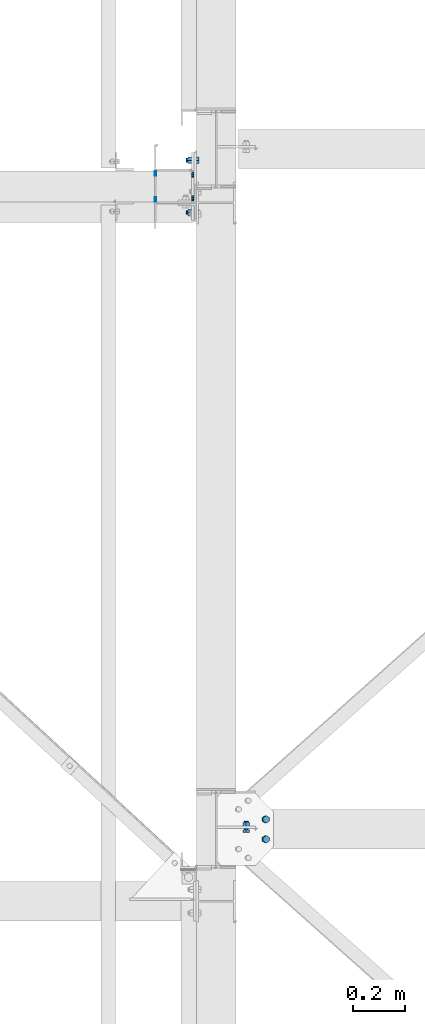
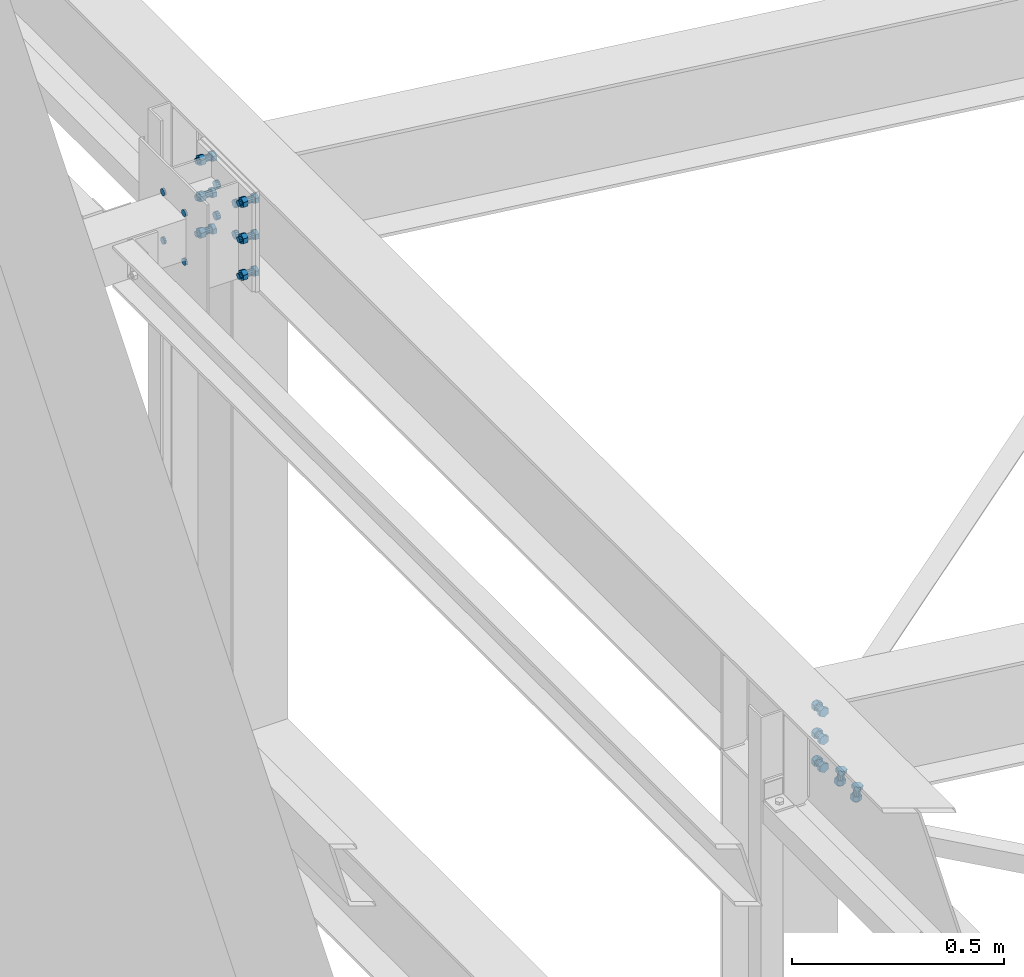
# One storey, part 195 of 3134: 5 mechanical fasteners, 3 elements without a shape of their own.
"""IFC2X3 building model written with IfcOpenShell, lengths in millimetres."""

from ifc_helpers import new_model, si_unit, frame, origin_with_axes, place, context, subcontext, project, spatial, faceted_brep, source, transform, mapped, material, type_object, element, aggregate, save


model = new_model("IFC2X3")

# Units and contexts
model_context = context("Model", 3, precision=1e-05, world=origin_with_axes())
body_context = subcontext(model_context, "Body", "Model", "MODEL_VIEW")
ifc_project = project(units=[si_unit("LENGTHUNIT", "METRE", prefix="MILLI"), si_unit("AREAUNIT", "SQUARE_METRE"), si_unit("VOLUMEUNIT", "CUBIC_METRE"), si_unit("MASSUNIT", "GRAM", prefix="KILO"), si_unit("TIMEUNIT", "SECOND"), si_unit("PLANEANGLEUNIT", "RADIAN"), si_unit("SOLIDANGLEUNIT", "STERADIAN"), si_unit("THERMODYNAMICTEMPERATUREUNIT", "DEGREE_CELSIUS"), si_unit("LUMINOUSINTENSITYUNIT", "LUMEN")], contexts=[model_context])

# Site, building, storey
site_placement = place(None, origin_with_axes())
site = spatial("IfcSite", under=ifc_project, at=site_placement, CompositionType="ELEMENT")
building_placement = place(site_placement, origin_with_axes())
building = spatial("IfcBuilding", under=site, at=building_placement, Name="Undefined", CompositionType="ELEMENT")
storey_placement = place(building_placement, origin_with_axes())
storey = spatial("IfcBuildingStorey", under=building, at=storey_placement, Name="Undefined", CompositionType="ELEMENT", Elevation=0.0)

# Assembly, mechanical fastener
assembly_1_placement = place(storey_placement, origin_with_axes())
assembly_1 = element("IfcElementAssembly", 1, at=assembly_1_placement, inside=storey, Name="300", AssemblyPlace="NOTDEFINED", PredefinedType="RIGID_FRAME")
ifc_material = material(Name="8.8")
mechanical_fastener_type = type_object("IfcMechanicalFastenerType", Name="Bolt assembly")
shared_shape_1 = source(origin_with_axes(), body_context, "Body", "Brep", [
    faceted_brep([(13.856406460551, -19.199990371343, 0.0), (6.92820323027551, -19.199990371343, 12.0), (-6.92820323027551, -19.199990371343, 12.0), (-13.856406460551, -19.199990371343, 1.69692038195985e-15), (-6.92820323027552, -19.199990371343, -12.0), (6.9282032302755, -19.199990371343, -12.0), (6.9282032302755, -9.19999037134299, -12.0), (-6.92820323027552, -9.19999037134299, -12.0), (-13.856406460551, -9.19999037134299, 1.69692038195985e-15), (-6.92820323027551, -9.19999037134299, 12.0), (6.92820323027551, -9.19999037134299, 12.0), (13.856406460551, -9.19999037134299, 0.0), (8.0, -9.19999037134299, 0.0), (6.92820323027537, -9.19999037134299, 4.00000000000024), (3.99999999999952, -9.19999037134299, 6.92820323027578), (-8.29068785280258e-13, -9.19999037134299, 8.0), (-4.00000000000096, -9.19999037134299, 6.92820323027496), (-6.9282032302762, -9.19999037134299, 3.99999999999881), (-8.0, -9.19999037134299, -1.65813757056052e-12), (-6.92820323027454, -9.19999037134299, -4.00000000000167), (-3.99999999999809, -9.19999037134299, -6.92820323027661), (2.47832457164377e-12, -9.19999037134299, -8.0), (4.00000000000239, -9.19999037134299, -6.92820323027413), (6.92820323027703, -9.19999037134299, -3.99999999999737), (6.92820323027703, 25.800009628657, -3.99999999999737), (4.00000000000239, 25.800009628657, -6.92820323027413), (2.47832457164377e-12, 25.800009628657, -8.0), (-3.99999999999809, 25.800009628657, -6.92820323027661), (-6.92820323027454, 25.800009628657, -4.00000000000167), (-8.0, 25.800009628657, -1.65813757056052e-12), (-6.9282032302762, 25.800009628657, 3.99999999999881), (-4.00000000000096, 25.800009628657, 6.92820323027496), (-8.29068785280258e-13, 25.800009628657, 8.0), (3.99999999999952, 25.800009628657, 6.92820323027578), (6.92820323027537, 25.800009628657, 4.00000000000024), (8.0, 25.800009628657, 0.0), (13.856406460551, 8.00000637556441, 0.0), (6.92820323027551, 8.00000637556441, 12.0), (-6.92820323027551, 8.00000637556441, 12.0), (-13.856406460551, 8.00000637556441, 1.69692038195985e-15), (-6.92820323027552, 8.00000637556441, -12.0), (6.9282032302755, 8.00000637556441, -12.0), (6.9282032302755, 21.0000063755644, -12.0), (-6.92820323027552, 21.0000063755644, -12.0), (-13.856406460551, 21.0000063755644, 1.69692038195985e-15), (-6.92820323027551, 21.0000063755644, 12.0), (6.92820323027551, 21.0000063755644, 12.0), (13.856406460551, 21.0000063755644, 0.0)], [[[0, 1, 2, 3, 4, 5]], [[6, 7, 8, 9, 10, 11]], [[0, 11, 10, 1]], [[1, 10, 9, 2]], [[2, 9, 8, 3]], [[3, 8, 7, 4]], [[4, 7, 6, 5]], [[5, 6, 11, 0]], [[12, 13, 14, 15, 16, 17, 18, 19, 20, 21, 22, 23]], [[24, 25, 26, 27, 28, 29, 30, 31, 32, 33, 34, 35]], [[12, 35, 34, 13]], [[13, 34, 33, 14]], [[14, 33, 32, 15]], [[15, 32, 31, 16]], [[16, 31, 30, 17]], [[17, 30, 29, 18]], [[18, 29, 28, 19]], [[19, 28, 27, 20]], [[20, 27, 26, 21]], [[21, 26, 25, 22]], [[22, 25, 24, 23]], [[23, 24, 35, 12]], [[36, 37, 38, 39, 40, 41]], [[42, 43, 44, 45, 46, 47]], [[36, 47, 46, 37]], [[37, 46, 45, 38]], [[38, 45, 44, 39]], [[39, 44, 43, 40]], [[40, 43, 42, 41]], [[41, 42, 47, 36]]]),
    faceted_brep([(9.0, -0.1, 0.0), (7.79422863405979, -0.1, 4.50000000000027), (4.49999999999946, -0.1, 7.79422863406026), (-9.3270238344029e-13, -0.1, 9.0), (-4.50000000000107, -0.1, 7.79422863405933), (-7.79422863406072, -0.1, 4.49999999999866), (-9.0, -0.1, -1.86540476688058e-12), (-7.79422863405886, -0.1, -4.50000000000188), (-4.49999999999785, -0.1, -7.79422863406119), (2.78811514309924e-12, -0.1, -9.0), (4.50000000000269, -0.1, -7.7942286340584), (7.79422863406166, -0.1, -4.49999999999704), (7.79422863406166, 8.00000000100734, -4.49999999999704), (4.50000000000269, 8.00000000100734, -7.7942286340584), (2.78811514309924e-12, 8.00000000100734, -9.0), (-4.49999999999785, 8.00000000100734, -7.79422863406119), (-7.79422863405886, 8.00000000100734, -4.50000000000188), (-9.0, 8.00000000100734, -1.86540476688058e-12), (-7.79422863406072, 8.00000000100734, 4.49999999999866), (-4.50000000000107, 8.00000000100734, 7.79422863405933), (-9.3270238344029e-13, 8.00000000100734, 9.0), (4.49999999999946, 8.00000000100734, 7.79422863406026), (7.79422863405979, 8.00000000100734, 4.50000000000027), (9.0, 8.00000000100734, 0.0), (9.0, -9.09999037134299, 0.0), (7.79422863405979, -9.09999037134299, 4.50000000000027), (4.49999999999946, -9.09999037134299, 7.79422863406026), (-9.3270238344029e-13, -9.09999037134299, 9.0), (-4.50000000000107, -9.09999037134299, 7.79422863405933), (-7.79422863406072, -9.09999037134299, 4.49999999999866), (-9.0, -9.09999037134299, -1.86540476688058e-12), (-7.79422863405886, -9.09999037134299, -4.50000000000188), (-4.49999999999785, -9.09999037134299, -7.79422863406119), (2.78811514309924e-12, -9.09999037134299, -9.0), (4.50000000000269, -9.09999037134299, -7.7942286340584), (7.79422863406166, -9.09999037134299, -4.49999999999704), (7.79422863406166, 0.100000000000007, -4.49999999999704), (4.50000000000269, 0.100000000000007, -7.7942286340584), (2.78811514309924e-12, 0.100000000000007, -9.0), (-4.49999999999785, 0.100000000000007, -7.79422863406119), (-7.79422863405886, 0.100000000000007, -4.50000000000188), (-9.0, 0.100000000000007, -1.86540476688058e-12), (-7.79422863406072, 0.100000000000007, 4.49999999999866), (-4.50000000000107, 0.100000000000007, 7.79422863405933), (-9.3270238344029e-13, 0.100000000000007, 9.0), (4.49999999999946, 0.100000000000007, 7.79422863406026), (7.79422863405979, 0.100000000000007, 4.50000000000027), (9.0, 0.100000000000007, 0.0)], [[[0, 1, 2, 3, 4, 5, 6, 7, 8, 9, 10, 11]], [[12, 13, 14, 15, 16, 17, 18, 19, 20, 21, 22, 23]], [[0, 23, 22, 1]], [[1, 22, 21, 2]], [[2, 21, 20, 3]], [[3, 20, 19, 4]], [[4, 19, 18, 5]], [[5, 18, 17, 6]], [[6, 17, 16, 7]], [[7, 16, 15, 8]], [[8, 15, 14, 9]], [[9, 14, 13, 10]], [[10, 13, 12, 11]], [[11, 12, 23, 0]], [[24, 25, 26, 27, 28, 29, 30, 31, 32, 33, 34, 35]], [[36, 37, 38, 39, 40, 41, 42, 43, 44, 45, 46, 47]], [[24, 47, 46, 25]], [[25, 46, 45, 26]], [[26, 45, 44, 27]], [[27, 44, 43, 28]], [[28, 43, 42, 29]], [[29, 42, 41, 30]], [[30, 41, 40, 31]], [[31, 40, 39, 32]], [[32, 39, 38, 33]], [[33, 38, 37, 34]], [[34, 37, 36, 35]], [[35, 36, 47, 24]]]),
])
mechanical_fastener_1_placement = place(assembly_1_placement, frame((21039.2248161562, 29887.9995130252, 5496.68063428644), z_axis=(0.992623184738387, 1.63108538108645e-05, -0.12124031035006), x_axis=(1.62000016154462e-05, -0.999999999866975, -1.90000018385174e-06)))
mechanical_fastener_1 = element("IfcMechanicalFastener", 2, at=mechanical_fastener_1_placement, type_object=mechanical_fastener_type, material=ifc_material, Name="Bolt assembly", NominalDiameter=16.0, NominalLength=35.0, context=body_context, shape_type="MappedRepresentation", body=[
    mapped(shared_shape_1, transform((0.0, 0.0, 0.0))),
    mapped(shared_shape_1, transform((76.0, 0.0, 0.0))),
])

# Assembly, mechanical fasteners
assembly_2_placement = place(storey_placement, origin_with_axes())
assembly_2 = element("IfcElementAssembly", 3, at=assembly_2_placement, inside=storey, AssemblyPlace="NOTDEFINED", PredefinedType="RIGID_FRAME")
shared_shape_2 = source(origin_with_axes(), body_context, "Body", "Brep", [
    faceted_brep([(9.0, -3.46568413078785e-07, 0.0), (7.79422863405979, -3.46568413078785e-07, 4.50000000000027), (4.49999999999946, -3.46568413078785e-07, 7.79422863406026), (-9.3270238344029e-13, -3.46568413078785e-07, 9.0), (-4.50000000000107, -3.46568413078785e-07, 7.79422863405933), (-7.79422863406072, -3.46568413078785e-07, 4.49999999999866), (-9.0, -3.46568413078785e-07, -1.86540476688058e-12), (-7.79422863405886, -3.46568413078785e-07, -4.50000000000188), (-4.49999999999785, -3.46568413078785e-07, -7.79422863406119), (2.78811514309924e-12, -3.46568413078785e-07, -9.0), (4.50000000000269, -3.46568413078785e-07, -7.7942286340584), (7.79422863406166, -3.46568413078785e-07, -4.49999999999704), (7.79422863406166, 6.1, -4.49999999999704), (4.50000000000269, 6.1, -7.7942286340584), (2.78811514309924e-12, 6.1, -9.0), (-4.49999999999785, 6.1, -7.79422863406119), (-7.79422863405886, 6.1, -4.50000000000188), (-9.0, 6.1, -1.86540476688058e-12), (-7.79422863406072, 6.1, 4.49999999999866), (-4.50000000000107, 6.1, 7.79422863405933), (-9.3270238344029e-13, 6.1, 9.0), (4.49999999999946, 6.1, 7.79422863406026), (7.79422863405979, 6.1, 4.50000000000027), (9.0, 6.1, 0.0)], [[[0, 1, 2, 3, 4, 5, 6, 7, 8, 9, 10, 11]], [[12, 13, 14, 15, 16, 17, 18, 19, 20, 21, 22, 23]], [[0, 23, 22, 1]], [[1, 22, 21, 2]], [[2, 21, 20, 3]], [[3, 20, 19, 4]], [[4, 19, 18, 5]], [[5, 18, 17, 6]], [[6, 17, 16, 7]], [[7, 16, 15, 8]], [[8, 15, 14, 9]], [[9, 14, 13, 10]], [[10, 13, 12, 11]], [[11, 12, 23, 0]]]),
])
mechanical_fastener_2_placement = place(assembly_2_placement, frame((20615.0, 32356.5019072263, 5760.0), z_axis=(0.0, 0.0, 1.0), x_axis=(0.0, -1.0, 0.0)))
mechanical_fastener_2 = element("IfcMechanicalFastener", 4, at=mechanical_fastener_2_placement, type_object=mechanical_fastener_type, material=ifc_material, Name="Bolt assembly", NominalDiameter=16.0, NominalLength=6.0, context=body_context, shape_type="MappedRepresentation", body=[
    mapped(shared_shape_2, transform((0.0, 0.0, -70.0))),
    mapped(shared_shape_2, transform((100.0, 0.0, -70.0))),
    mapped(shared_shape_2, transform((0.0, 0.0, 70.0))),
    mapped(shared_shape_2, transform((100.0, 0.0, 70.0))),
])
shared_shape_3 = source(origin_with_axes(), body_context, "Body", "Brep", [
    faceted_brep([(11.0, 0.0, 0.0), (9.52627944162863, 0.0, 5.50000000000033), (5.49999999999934, 0.0, 9.5262794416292), (-1.13996957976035e-12, 0.0, 11.0), (-5.50000000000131, 0.0, 9.52627944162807), (-9.52627944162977, 0.0, 5.49999999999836), (-11.0, 0.0, -2.27993915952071e-12), (-9.5262794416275, 0.0, -5.5000000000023), (-5.49999999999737, 0.0, -9.52627944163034), (3.40769628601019e-12, 0.0, -11.0), (5.50000000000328, 0.0, -9.52627944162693), (9.52627944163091, 0.0, -5.49999999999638), (9.52627944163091, 10.1, -5.49999999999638), (5.50000000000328, 10.1, -9.52627944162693), (3.40769628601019e-12, 10.1, -11.0), (-5.49999999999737, 10.1, -9.52627944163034), (-9.5262794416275, 10.1, -5.5000000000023), (-11.0, 10.1, -2.27993915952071e-12), (-9.52627944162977, 10.1, 5.49999999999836), (-5.50000000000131, 10.1, 9.52627944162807), (-1.13996957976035e-12, 10.1, 11.0), (5.49999999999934, 10.1, 9.5262794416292), (9.52627944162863, 10.1, 5.50000000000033), (11.0, 10.1, 0.0)], [[[0, 1, 2, 3, 4, 5, 6, 7, 8, 9, 10, 11]], [[12, 13, 14, 15, 16, 17, 18, 19, 20, 21, 22, 23]], [[0, 23, 22, 1]], [[1, 22, 21, 2]], [[2, 21, 20, 3]], [[3, 20, 19, 4]], [[4, 19, 18, 5]], [[5, 18, 17, 6]], [[6, 17, 16, 7]], [[7, 16, 15, 8]], [[8, 15, 14, 9]], [[9, 14, 13, 10]], [[10, 13, 12, 11]], [[11, 12, 23, 0]]]),
])
mechanical_fastener_3_placement = place(assembly_2_placement, frame((20755.0, 32351.5019072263, 5760.0), z_axis=(0.0, 0.0, 1.0), x_axis=(0.0, -1.0, 0.0)))
mechanical_fastener_3 = element("IfcMechanicalFastener", 5, at=mechanical_fastener_3_placement, type_object=mechanical_fastener_type, material=ifc_material, Name="Bolt assembly", NominalDiameter=20.0, NominalLength=10.0, context=body_context, shape_type="MappedRepresentation", body=[
    mapped(shared_shape_3, transform((0.0, 0.0, -45.0))),
    mapped(shared_shape_3, transform((90.0, 0.0, -45.0))),
    mapped(shared_shape_3, transform((0.0, 0.0, 45.0))),
    mapped(shared_shape_3, transform((90.0, 0.0, 45.0))),
])
aggregate(assembly_2, [mechanical_fastener_3, mechanical_fastener_2])

# Assembly, mechanical fastener
assembly_3_placement = place(storey_placement, origin_with_axes())
assembly_3 = element("IfcElementAssembly", 6, at=assembly_3_placement, inside=storey, Name="300", AssemblyPlace="NOTDEFINED", PredefinedType="RIGID_FRAME")
shared_shape_4 = source(origin_with_axes(), body_context, "Body", "Brep", [
    faceted_brep([(13.856406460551, -30.0, 0.0), (6.92820323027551, -30.0, 12.0), (-6.92820323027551, -30.0, 12.0), (-13.856406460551, -30.0, 1.69692038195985e-15), (-6.92820323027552, -30.0, -12.0), (6.9282032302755, -30.0, -12.0), (6.9282032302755, -20.0, -12.0), (-6.92820323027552, -20.0, -12.0), (-13.856406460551, -20.0, 1.69692038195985e-15), (-6.92820323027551, -20.0, 12.0), (6.92820323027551, -20.0, 12.0), (13.856406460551, -20.0, 0.0), (8.0, -20.0, 0.0), (6.92820323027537, -20.0, 4.00000000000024), (3.99999999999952, -20.0, 6.92820323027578), (-8.29068785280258e-13, -20.0, 8.0), (-4.00000000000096, -20.0, 6.92820323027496), (-6.9282032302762, -20.0, 3.99999999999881), (-8.0, -20.0, -1.65813757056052e-12), (-6.92820323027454, -20.0, -4.00000000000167), (-3.99999999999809, -20.0, -6.92820323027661), (2.47832457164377e-12, -20.0, -8.0), (4.00000000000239, -20.0, -6.92820323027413), (6.92820323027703, -20.0, -3.99999999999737), (6.92820323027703, 20.0, -3.99999999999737), (4.00000000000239, 20.0, -6.92820323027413), (2.47832457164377e-12, 20.0, -8.0), (-3.99999999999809, 20.0, -6.92820323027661), (-6.92820323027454, 20.0, -4.00000000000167), (-8.0, 20.0, -1.65813757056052e-12), (-6.9282032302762, 20.0, 3.99999999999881), (-4.00000000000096, 20.0, 6.92820323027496), (-8.29068785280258e-13, 20.0, 8.0), (3.99999999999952, 20.0, 6.92820323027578), (6.92820323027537, 20.0, 4.00000000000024), (8.0, 20.0, 0.0), (13.856406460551, 0.0, 0.0), (6.92820323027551, 0.0, 12.0), (-6.92820323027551, 0.0, 12.0), (-13.856406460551, 0.0, 1.69692038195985e-15), (-6.92820323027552, 0.0, -12.0), (6.9282032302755, 0.0, -12.0), (6.9282032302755, 12.9999996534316, -12.0), (-6.92820323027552, 12.9999996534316, -12.0), (-13.856406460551, 12.9999996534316, 1.69692038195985e-15), (-6.92820323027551, 12.9999996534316, 12.0), (6.92820323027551, 12.9999996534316, 12.0), (13.856406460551, 12.9999996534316, 0.0)], [[[0, 1, 2, 3, 4, 5]], [[6, 7, 8, 9, 10, 11]], [[0, 11, 10, 1]], [[1, 10, 9, 2]], [[2, 9, 8, 3]], [[3, 8, 7, 4]], [[4, 7, 6, 5]], [[5, 6, 11, 0]], [[12, 13, 14, 15, 16, 17, 18, 19, 20, 21, 22, 23]], [[24, 25, 26, 27, 28, 29, 30, 31, 32, 33, 34, 35]], [[12, 35, 34, 13]], [[13, 34, 33, 14]], [[14, 33, 32, 15]], [[15, 32, 31, 16]], [[16, 31, 30, 17]], [[17, 30, 29, 18]], [[18, 29, 28, 19]], [[19, 28, 27, 20]], [[20, 27, 26, 21]], [[21, 26, 25, 22]], [[22, 25, 24, 23]], [[23, 24, 35, 12]], [[36, 37, 38, 39, 40, 41]], [[42, 43, 44, 45, 46, 47]], [[36, 47, 46, 37]], [[37, 46, 45, 38]], [[38, 45, 44, 39]], [[39, 44, 43, 40]], [[40, 43, 42, 41]], [[41, 42, 47, 36]]]),
    faceted_brep([(9.0, -10.1000003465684, 0.0), (7.79422863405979, -10.1000003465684, 4.50000000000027), (4.49999999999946, -10.1000003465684, 7.79422863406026), (-9.3270238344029e-13, -10.1000003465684, 9.0), (-4.50000000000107, -10.1000003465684, 7.79422863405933), (-7.79422863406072, -10.1000003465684, 4.49999999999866), (-9.0, -10.1000003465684, -1.86540476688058e-12), (-7.79422863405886, -10.1000003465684, -4.50000000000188), (-4.49999999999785, -10.1000003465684, -7.79422863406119), (2.78811514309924e-12, -10.1000003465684, -9.0), (4.50000000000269, -10.1000003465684, -7.7942286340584), (7.79422863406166, -10.1000003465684, -4.49999999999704), (7.79422863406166, -3.46568413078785e-07, -4.49999999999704), (4.50000000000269, -3.46568413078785e-07, -7.7942286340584), (2.78811514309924e-12, -3.46568413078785e-07, -9.0), (-4.49999999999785, -3.46568413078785e-07, -7.79422863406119), (-7.79422863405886, -3.46568413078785e-07, -4.50000000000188), (-9.0, -3.46568413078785e-07, -1.86540476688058e-12), (-7.79422863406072, -3.46568413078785e-07, 4.49999999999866), (-4.50000000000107, -3.46568413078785e-07, 7.79422863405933), (-9.3270238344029e-13, -3.46568413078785e-07, 9.0), (4.49999999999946, -3.46568413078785e-07, 7.79422863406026), (7.79422863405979, -3.46568413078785e-07, 4.50000000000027), (9.0, -3.46568413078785e-07, 0.0), (9.0, -19.9, 0.0), (7.79422863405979, -19.9, 4.50000000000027), (4.49999999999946, -19.9, 7.79422863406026), (-9.3270238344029e-13, -19.9, 9.0), (-4.50000000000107, -19.9, 7.79422863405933), (-7.79422863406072, -19.9, 4.49999999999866), (-9.0, -19.9, -1.86540476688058e-12), (-7.79422863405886, -19.9, -4.50000000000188), (-4.49999999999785, -19.9, -7.79422863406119), (2.78811514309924e-12, -19.9, -9.0), (4.50000000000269, -19.9, -7.7942286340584), (7.79422863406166, -19.9, -4.49999999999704), (7.79422863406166, -9.89999997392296, -4.49999999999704), (4.50000000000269, -9.89999997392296, -7.7942286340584), (2.78811514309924e-12, -9.89999997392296, -9.0), (-4.49999999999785, -9.89999997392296, -7.79422863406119), (-7.79422863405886, -9.89999997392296, -4.50000000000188), (-9.0, -9.89999997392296, -1.86540476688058e-12), (-7.79422863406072, -9.89999997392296, 4.49999999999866), (-4.50000000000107, -9.89999997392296, 7.79422863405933), (-9.3270238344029e-13, -9.89999997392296, 9.0), (4.49999999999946, -9.89999997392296, 7.79422863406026), (7.79422863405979, -9.89999997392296, 4.50000000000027), (9.0, -9.89999997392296, 0.0)], [[[0, 1, 2, 3, 4, 5, 6, 7, 8, 9, 10, 11]], [[12, 13, 14, 15, 16, 17, 18, 19, 20, 21, 22, 23]], [[0, 23, 22, 1]], [[1, 22, 21, 2]], [[2, 21, 20, 3]], [[3, 20, 19, 4]], [[4, 19, 18, 5]], [[5, 18, 17, 6]], [[6, 17, 16, 7]], [[7, 16, 15, 8]], [[8, 15, 14, 9]], [[9, 14, 13, 10]], [[10, 13, 12, 11]], [[11, 12, 23, 0]], [[24, 25, 26, 27, 28, 29, 30, 31, 32, 33, 34, 35]], [[36, 37, 38, 39, 40, 41, 42, 43, 44, 45, 46, 47]], [[24, 47, 46, 25]], [[25, 46, 45, 26]], [[26, 45, 44, 27]], [[27, 44, 43, 28]], [[28, 43, 42, 29]], [[29, 42, 41, 30]], [[30, 41, 40, 31]], [[31, 40, 39, 32]], [[32, 39, 38, 33]], [[33, 38, 37, 34]], [[34, 37, 36, 35]], [[35, 36, 47, 24]]]),
])
mechanical_fastener_4_placement = place(assembly_3_placement, frame((20755.0, 32306.5019072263, 5846.5), z_axis=(0.0, 1.0, 0.0), x_axis=(0.0, 0.0, -1.0)))
mechanical_fastener_4 = element("IfcMechanicalFastener", 7, at=mechanical_fastener_4_placement, type_object=mechanical_fastener_type, material=ifc_material, Name="Bolt assembly", NominalDiameter=16.0, NominalLength=40.0, context=body_context, shape_type="MappedRepresentation", body=[
    mapped(shared_shape_4, transform((0.0, 0.0, -100.0))),
    mapped(shared_shape_4, transform((105.0, 0.0, -100.0))),
    mapped(shared_shape_4, transform((210.0, 0.0, -100.0))),
    mapped(shared_shape_4, transform((0.0, 0.0, 100.0))),
    mapped(shared_shape_4, transform((105.0, 0.0, 100.0))),
    mapped(shared_shape_4, transform((210.0, 0.0, 100.0))),
])
aggregate(assembly_3, [mechanical_fastener_4])

# Mechanical fastener
shared_shape_5 = source(origin_with_axes(), body_context, "Body", "Brep", [
    faceted_brep([(13.856406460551, -13.0499999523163, 0.0), (6.92820323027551, -13.0499999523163, 12.0), (-6.92820323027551, -13.0499999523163, 12.0), (-13.856406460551, -13.0499999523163, 1.69692038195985e-15), (-6.92820323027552, -13.0499999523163, -12.0), (6.9282032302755, -13.0499999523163, -12.0), (6.9282032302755, -3.04999995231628, -12.0), (-6.92820323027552, -3.04999995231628, -12.0), (-13.856406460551, -3.04999995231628, 1.69692038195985e-15), (-6.92820323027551, -3.04999995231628, 12.0), (6.92820323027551, -3.04999995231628, 12.0), (13.856406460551, -3.04999995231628, 0.0), (8.0, -3.04999995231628, 0.0), (6.92820323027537, -3.04999995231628, 4.00000000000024), (3.99999999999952, -3.04999995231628, 6.92820323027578), (-8.29068785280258e-13, -3.04999995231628, 8.0), (-4.00000000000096, -3.04999995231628, 6.92820323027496), (-6.9282032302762, -3.04999995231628, 3.99999999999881), (-8.0, -3.04999995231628, -1.65813757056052e-12), (-6.92820323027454, -3.04999995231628, -4.00000000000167), (-3.99999999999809, -3.04999995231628, -6.92820323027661), (2.47832457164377e-12, -3.04999995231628, -8.0), (4.00000000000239, -3.04999995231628, -6.92820323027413), (6.92820323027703, -3.04999995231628, -3.99999999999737), (6.92820323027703, 31.9500000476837, -3.99999999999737), (4.00000000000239, 31.9500000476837, -6.92820323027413), (2.47832457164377e-12, 31.9500000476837, -8.0), (-3.99999999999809, 31.9500000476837, -6.92820323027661), (-6.92820323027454, 31.9500000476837, -4.00000000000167), (-8.0, 31.9500000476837, -1.65813757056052e-12), (-6.9282032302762, 31.9500000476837, 3.99999999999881), (-4.00000000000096, 31.9500000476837, 6.92820323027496), (-8.29068785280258e-13, 31.9500000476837, 8.0), (3.99999999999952, 31.9500000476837, 6.92820323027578), (6.92820323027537, 31.9500000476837, 4.00000000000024), (8.0, 31.9500000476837, 0.0), (13.856406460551, 13.0500000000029, 0.0), (6.92820323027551, 13.0500000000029, 12.0), (-6.92820323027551, 13.0500000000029, 12.0), (-13.856406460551, 13.0500000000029, 1.69692038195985e-15), (-6.92820323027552, 13.0500000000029, -12.0), (6.9282032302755, 13.0500000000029, -12.0), (6.9282032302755, 26.0500000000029, -12.0), (-6.92820323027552, 26.0500000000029, -12.0), (-13.856406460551, 26.0500000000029, 1.69692038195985e-15), (-6.92820323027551, 26.0500000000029, 12.0), (6.92820323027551, 26.0500000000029, 12.0), (13.856406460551, 26.0500000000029, 0.0)], [[[0, 1, 2, 3, 4, 5]], [[6, 7, 8, 9, 10, 11]], [[0, 11, 10, 1]], [[1, 10, 9, 2]], [[2, 9, 8, 3]], [[3, 8, 7, 4]], [[4, 7, 6, 5]], [[5, 6, 11, 0]], [[12, 13, 14, 15, 16, 17, 18, 19, 20, 21, 22, 23]], [[24, 25, 26, 27, 28, 29, 30, 31, 32, 33, 34, 35]], [[12, 35, 34, 13]], [[13, 34, 33, 14]], [[14, 33, 32, 15]], [[15, 32, 31, 16]], [[16, 31, 30, 17]], [[17, 30, 29, 18]], [[18, 29, 28, 19]], [[19, 28, 27, 20]], [[20, 27, 26, 21]], [[21, 26, 25, 22]], [[22, 25, 24, 23]], [[23, 24, 35, 12]], [[36, 37, 38, 39, 40, 41]], [[42, 43, 44, 45, 46, 47]], [[36, 47, 46, 37]], [[37, 46, 45, 38]], [[38, 45, 44, 39]], [[39, 44, 43, 40]], [[40, 43, 42, 41]], [[41, 42, 47, 36]]]),
    faceted_brep([(9.0, 2.95000000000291, 0.0), (7.79422863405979, 2.95000000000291, 4.50000000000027), (4.49999999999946, 2.95000000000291, 7.79422863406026), (-9.3270238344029e-13, 2.95000000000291, 9.0), (-4.50000000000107, 2.95000000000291, 7.79422863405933), (-7.79422863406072, 2.95000000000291, 4.49999999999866), (-9.0, 2.95000000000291, -1.86540476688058e-12), (-7.79422863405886, 2.95000000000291, -4.50000000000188), (-4.49999999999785, 2.95000000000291, -7.79422863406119), (2.78811514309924e-12, 2.95000000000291, -9.0), (4.50000000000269, 2.95000000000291, -7.7942286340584), (7.79422863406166, 2.95000000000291, -4.49999999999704), (7.79422863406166, 13.0500000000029, -4.49999999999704), (4.50000000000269, 13.0500000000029, -7.7942286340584), (2.78811514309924e-12, 13.0500000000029, -9.0), (-4.49999999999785, 13.0500000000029, -7.79422863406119), (-7.79422863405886, 13.0500000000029, -4.50000000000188), (-9.0, 13.0500000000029, -1.86540476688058e-12), (-7.79422863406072, 13.0500000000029, 4.49999999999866), (-4.50000000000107, 13.0500000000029, 7.79422863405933), (-9.3270238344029e-13, 13.0500000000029, 9.0), (4.49999999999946, 13.0500000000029, 7.79422863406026), (7.79422863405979, 13.0500000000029, 4.50000000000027), (9.0, 13.0500000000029, 0.0), (9.0, -2.94999995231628, 0.0), (7.79422863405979, -2.94999995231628, 4.50000000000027), (4.49999999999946, -2.94999995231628, 7.79422863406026), (-9.3270238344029e-13, -2.94999995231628, 9.0), (-4.50000000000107, -2.94999995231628, 7.79422863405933), (-7.79422863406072, -2.94999995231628, 4.49999999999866), (-9.0, -2.94999995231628, -1.86540476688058e-12), (-7.79422863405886, -2.94999995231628, -4.50000000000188), (-4.49999999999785, -2.94999995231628, -7.79422863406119), (2.78811514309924e-12, -2.94999995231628, -9.0), (4.50000000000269, -2.94999995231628, -7.7942286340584), (7.79422863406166, -2.94999995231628, -4.49999999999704), (7.79422863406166, 3.14999995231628, -4.49999999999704), (4.50000000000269, 3.14999995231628, -7.7942286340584), (2.78811514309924e-12, 3.14999995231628, -9.0), (-4.49999999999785, 3.14999995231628, -7.79422863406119), (-7.79422863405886, 3.14999995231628, -4.50000000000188), (-9.0, 3.14999995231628, -1.86540476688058e-12), (-7.79422863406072, 3.14999995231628, 4.49999999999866), (-4.50000000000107, 3.14999995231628, 7.79422863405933), (-9.3270238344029e-13, 3.14999995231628, 9.0), (4.49999999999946, 3.14999995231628, 7.79422863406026), (7.79422863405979, 3.14999995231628, 4.50000000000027), (9.0, 3.14999995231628, 0.0)], [[[0, 1, 2, 3, 4, 5, 6, 7, 8, 9, 10, 11]], [[12, 13, 14, 15, 16, 17, 18, 19, 20, 21, 22, 23]], [[0, 23, 22, 1]], [[1, 22, 21, 2]], [[2, 21, 20, 3]], [[3, 20, 19, 4]], [[4, 19, 18, 5]], [[5, 18, 17, 6]], [[6, 17, 16, 7]], [[7, 16, 15, 8]], [[8, 15, 14, 9]], [[9, 14, 13, 10]], [[10, 13, 12, 11]], [[11, 12, 23, 0]], [[24, 25, 26, 27, 28, 29, 30, 31, 32, 33, 34, 35]], [[36, 37, 38, 39, 40, 41, 42, 43, 44, 45, 46, 47]], [[24, 47, 46, 25]], [[25, 46, 45, 26]], [[26, 45, 44, 27]], [[27, 44, 43, 28]], [[28, 43, 42, 29]], [[29, 42, 41, 30]], [[30, 41, 40, 31]], [[31, 40, 39, 32]], [[32, 39, 38, 33]], [[33, 38, 37, 34]], [[34, 37, 36, 35]], [[35, 36, 47, 24]]]),
])
mechanical_fastener_5_placement = place(assembly_1_placement, frame((20965.0, 29850.0, 5735.35014950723), z_axis=(1.0, 0.0, 0.0), x_axis=(0.0, 0.0, -1.0)))
mechanical_fastener_5 = element("IfcMechanicalFastener", 8, at=mechanical_fastener_5_placement, type_object=mechanical_fastener_type, material=ifc_material, Name="Bolt assembly", NominalDiameter=16.0, NominalLength=35.0, context=body_context, shape_type="MappedRepresentation", body=[
    mapped(shared_shape_5, transform((0.0, 0.0, 0.0))),
    mapped(shared_shape_5, transform((80.0, 0.0, 0.0))),
    mapped(shared_shape_5, transform((160.0, 0.0, 0.0))),
])

aggregate(assembly_1, [mechanical_fastener_1, mechanical_fastener_5])

save(model, "model.ifc")
